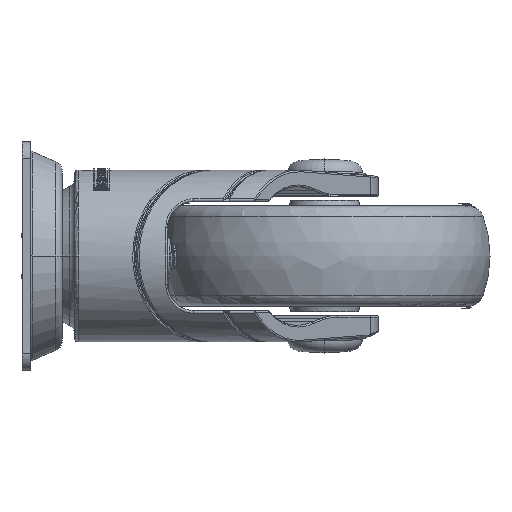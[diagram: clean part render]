
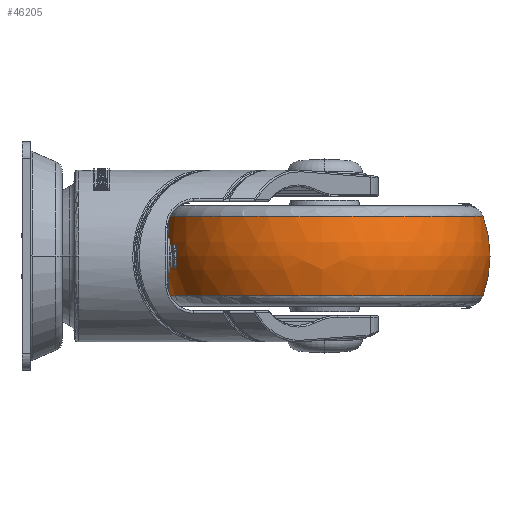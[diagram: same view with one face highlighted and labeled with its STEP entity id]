
A CAD part, left-side view. The second image highlights one B-rep face of the part: STEP entity #46205.
In plain terms, the highlighted free-form (B-spline) face has degree [3, 3] with [7, 4] control points.
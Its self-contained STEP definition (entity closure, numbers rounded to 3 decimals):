
#40035=CARTESIAN_POINT('',(36.,-69.8,-11.958));
#40036=DIRECTION('',(0.,0.,-1.));
#40037=DIRECTION('',(-0.014,-1.,0.));
#40038=AXIS2_PLACEMENT_3D('',#40035,#40036,#40037);
#40040=CARTESIAN_POINT('',(36.,-69.8,11.958));
#40041=DIRECTION('',(0.,0.,-1.));
#40042=DIRECTION('',(-0.014,-1.,0.));
#40043=AXIS2_PLACEMENT_3D('',#40040,#40041,#40042);
#40302=CARTESIAN_POINT('',(35.787,-84.798,0.));
#40303=DIRECTION('',(1.,-0.014,0.));
#40304=DIRECTION('',(-0.013,-0.94,0.342));
#40305=AXIS2_PLACEMENT_3D('',#40302,#40303,#40304);
#40312=CARTESIAN_POINT('',(36.213,-54.802,0.));
#40313=DIRECTION('',(-1.,0.014,0.));
#40314=DIRECTION('',(0.013,0.94,0.342));
#40315=AXIS2_PLACEMENT_3D('',#40312,#40313,#40314);
#44359=CARTESIAN_POINT('',(35.319,-117.689,
-11.958));
#44360=CARTESIAN_POINT('',(36.681,-21.911,
-11.958));
#44361=VERTEX_POINT('',#44359);
#44362=VERTEX_POINT('',#44360);
#44363=CARTESIAN_POINT('',(35.319,-117.689,
11.958));
#44364=CARTESIAN_POINT('',(36.681,-21.911,
11.958));
#44365=VERTEX_POINT('',#44363);
#44366=VERTEX_POINT('',#44364);
#46166=CARTESIAN_POINT('',(39.674,-22.218,
-12.416));
#46167=CARTESIAN_POINT('',(39.91,-19.158,
-4.326));
#46168=CARTESIAN_POINT('',(39.91,-19.158,
4.326));
#46169=CARTESIAN_POINT('',(39.674,-22.218,
12.416));
#46170=CARTESIAN_POINT('',(10.392,-19.957,
-12.416));
#46171=CARTESIAN_POINT('',(8.745,-16.751,
-4.326));
#46172=CARTESIAN_POINT('',(8.745,-16.751,
4.326));
#46173=CARTESIAN_POINT('',(10.392,-19.957,
12.416));
#46174=CARTESIAN_POINT('',(-11.301,-39.755,
-12.416));
#46175=CARTESIAN_POINT('',(-14.343,-37.823,
-4.326));
#46176=CARTESIAN_POINT('',(-14.343,-37.823,
4.326));
#46177=CARTESIAN_POINT('',(-11.301,-39.755,
12.416));
#46178=CARTESIAN_POINT('',(-11.719,-69.121,
-12.416));
#46179=CARTESIAN_POINT('',(-14.788,-69.077,
-4.326));
#46180=CARTESIAN_POINT('',(-14.788,-69.077,
4.326));
#46181=CARTESIAN_POINT('',(-11.719,-69.121,
12.416));
#46182=CARTESIAN_POINT('',(-12.137,-98.487,
-12.416));
#46183=CARTESIAN_POINT('',(-15.233,-100.332,
-4.326));
#46184=CARTESIAN_POINT('',(-15.233,-100.332,
4.326));
#46185=CARTESIAN_POINT('',(-12.137,-98.487,
12.416));
#46186=CARTESIAN_POINT('',(8.984,-118.894,
-12.416));
#46187=CARTESIAN_POINT('',(7.247,-122.052,
-4.326));
#46188=CARTESIAN_POINT('',(7.247,-122.052,
4.326));
#46189=CARTESIAN_POINT('',(8.984,-118.894,
12.416));
#46190=CARTESIAN_POINT('',(38.319,-117.467,
-12.416));
#46191=CARTESIAN_POINT('',(38.468,-120.533,
-4.326));
#46192=CARTESIAN_POINT('',(38.468,-120.533,
4.326));
#46193=CARTESIAN_POINT('',(38.319,-117.467,
12.416));
#46194=(BOUNDED_SURFACE()B_SPLINE_SURFACE(3,3,((#46166,#46167,#46168,#46169),(
#46170,#46171,#46172,#46173),(#46174,#46175,#46176,#46177),(#46178,#46179,
#46180,#46181),(#46182,#46183,#46184,#46185),(#46186,#46187,#46188,#46189),(
#46190,#46191,#46192,#46193)),.UNSPECIFIED.,.F.,.F.,.F.)B_SPLINE_SURFACE_WITH_KNOTS((4,3,4),(4,4),(0.,1.,2.),(0.,1.),.UNSPECIFIED.)GEOMETRIC_REPRESENTATION_ITEM()RATIONAL_B_SPLINE_SURFACE(((1.227,1.174,
1.174,1.227),(0.969,0.927,
0.927,0.969),(0.969,0.927,
0.927,0.969),(1.227,1.174,
1.174,1.227),(0.969,0.927,
0.927,0.969),(0.969,0.927,
0.927,0.969),(1.227,1.174,
1.174,1.227)))REPRESENTATION_ITEM('')SURFACE());
#46196=ORIENTED_EDGE('',*,*,#46195,.T.);
#46198=ORIENTED_EDGE('',*,*,#46197,.F.);
#46200=ORIENTED_EDGE('',*,*,#46199,.F.);
#46202=ORIENTED_EDGE('',*,*,#46201,.T.);
#46203=EDGE_LOOP('',(#46196,#46198,#46200,#46202));
#46204=FACE_OUTER_BOUND('',#46203,.F.);
#40039=CIRCLE('',#40038,47.894);
#40044=CIRCLE('',#40043,47.894);
#40306=CIRCLE('',#40305,35.);
#40316=CIRCLE('',#40315,35.);
#46195=EDGE_CURVE('',#44361,#44362,#40039,.T.);
#46197=EDGE_CURVE('',#44366,#44362,#40316,.T.);
#46199=EDGE_CURVE('',#44365,#44366,#40044,.T.);
#46201=EDGE_CURVE('',#44365,#44361,#40306,.T.);
#46205=ADVANCED_FACE('',(#46204),#46194,.T.);
